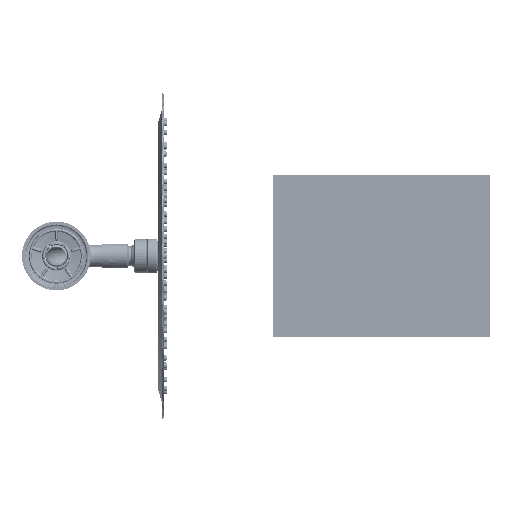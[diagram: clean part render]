
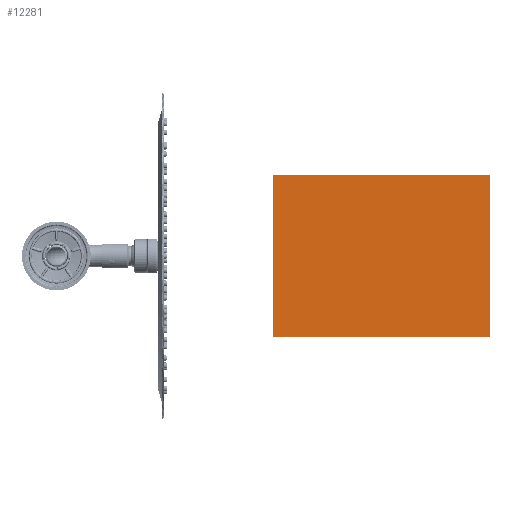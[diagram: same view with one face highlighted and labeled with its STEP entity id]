
A CAD part, front view. The second image highlights one B-rep face of the part: STEP entity #12281.
In plain terms, the highlighted planar face has unit normal (0, -1, 0).
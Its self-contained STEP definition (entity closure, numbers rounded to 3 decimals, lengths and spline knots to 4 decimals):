
#12281 = ADVANCED_FACE ( 'NONE', ( #135633 ), #99969, .F. ) ;
#17207 = EDGE_CURVE ( 'NONE', #106319, #26379, #68722, .T. ) ;
#26379 = VERTEX_POINT ( 'NONE', #176592 ) ;
#30269 = CARTESIAN_POINT ( 'NONE',  ( -3.937, 1.8878, -2.9135 ) ) ;
#36622 = CARTESIAN_POINT ( 'NONE',  ( -3.8976, 1.8878, -2.9135 ) ) ;
#39205 = DIRECTION ( 'NONE',  ( -1., 0., 0. ) ) ;
#44833 = AXIS2_PLACEMENT_3D ( 'NONE', #36622, #98679, #39205 ) ;
#52945 = EDGE_CURVE ( 'NONE', #26379, #66821, #118938, .T. ) ;
#61815 = DIRECTION ( 'NONE',  ( 0., -1., 0. ) ) ;
#63519 = CARTESIAN_POINT ( 'NONE',  ( 3.8976, 1.8878, -2.9135 ) ) ;
#64273 = DIRECTION ( 'NONE',  ( -1., 0., 0. ) ) ;
#64381 = CARTESIAN_POINT ( 'NONE',  ( -3.8976, 1.8878, 2.9132 ) ) ;
#65861 = DIRECTION ( 'NONE',  ( 0., -1., 0. ) ) ;
#66821 = VERTEX_POINT ( 'NONE', #30269 ) ;
#68375 = DIRECTION ( 'NONE',  ( 1., 0., 0. ) ) ;
#68722 = CIRCLE ( 'NONE', #216325, 0.0394 ) ;
#69665 = CARTESIAN_POINT ( 'NONE',  ( -3.8976, 1.8878, -2.9529 ) ) ;
#71914 = ORIENTED_EDGE ( 'NONE', *, *, #253899, .T. ) ;
#89776 = VECTOR ( 'NONE', #159876, 39.3701 ) ;
#98679 = DIRECTION ( 'NONE',  ( 0., 1., 0. ) ) ;
#99969 = PLANE ( 'NONE',  #44833 ) ;
#103190 = CIRCLE ( 'NONE', #250757, 0.0394 ) ;
#106319 = VERTEX_POINT ( 'NONE', #256152 ) ;
#111949 = CARTESIAN_POINT ( 'NONE',  ( 3.8976, 1.8878, -2.9529 ) ) ;
#112950 = VERTEX_POINT ( 'NONE', #69665 ) ;
#118938 = LINE ( 'NONE', #137464, #89776 ) ;
#126269 = CARTESIAN_POINT ( 'NONE',  ( 3.937, 1.8878, 2.9132 ) ) ;
#127033 = LINE ( 'NONE', #162821, #128673 ) ;
#127137 = EDGE_LOOP ( 'NONE', ( #206354, #155726, #212463, #231574, #218395, #71914, #135560, #153415 ) ) ;
#128673 = VECTOR ( 'NONE', #183926, 39.3701 ) ;
#135560 = ORIENTED_EDGE ( 'NONE', *, *, #17207, .T. ) ;
#135633 = FACE_OUTER_BOUND ( 'NONE', #127137, .T. ) ;
#137464 = CARTESIAN_POINT ( 'NONE',  ( -3.937, 1.8878, -2.9135 ) ) ;
#144512 = VERTEX_POINT ( 'NONE', #212559 ) ;
#152906 = VERTEX_POINT ( 'NONE', #196416 ) ;
#153415 = ORIENTED_EDGE ( 'NONE', *, *, #52945, .T. ) ;
#155726 = ORIENTED_EDGE ( 'NONE', *, *, #202613, .T. ) ;
#157829 = AXIS2_PLACEMENT_3D ( 'NONE', #224347, #65861, #228207 ) ;
#159876 = DIRECTION ( 'NONE',  ( 0., 0., -1. ) ) ;
#162821 = CARTESIAN_POINT ( 'NONE',  ( -3.8976, 1.8878, 2.9526 ) ) ;
#165983 = EDGE_CURVE ( 'NONE', #66821, #112950, #103190, .T. ) ;
#169719 = AXIS2_PLACEMENT_3D ( 'NONE', #63519, #244456, #249641 ) ;
#176592 = CARTESIAN_POINT ( 'NONE',  ( -3.937, 1.8878, 2.9132 ) ) ;
#177820 = VERTEX_POINT ( 'NONE', #198247 ) ;
#181221 = EDGE_CURVE ( 'NONE', #218402, #152906, #225260, .T. ) ;
#183926 = DIRECTION ( 'NONE',  ( -1., 0., 0. ) ) ;
#185956 = CARTESIAN_POINT ( 'NONE',  ( 3.937, 1.8878, 2.9132 ) ) ;
#196416 = CARTESIAN_POINT ( 'NONE',  ( 3.8976, 1.8878, 2.9526 ) ) ;
#198247 = CARTESIAN_POINT ( 'NONE',  ( 3.8976, 1.8878, -2.9529 ) ) ;
#202613 = EDGE_CURVE ( 'NONE', #112950, #177820, #248004, .T. ) ;
#202982 = DIRECTION ( 'NONE',  ( 0., -1., 0. ) ) ;
#204152 = VECTOR ( 'NONE', #246705, 39.3701 ) ;
#206354 = ORIENTED_EDGE ( 'NONE', *, *, #165983, .T. ) ;
#212463 = ORIENTED_EDGE ( 'NONE', *, *, #234474, .T. ) ;
#212559 = CARTESIAN_POINT ( 'NONE',  ( 3.937, 1.8878, -2.9135 ) ) ;
#214594 = EDGE_CURVE ( 'NONE', #144512, #218402, #229456, .T. ) ;
#216325 = AXIS2_PLACEMENT_3D ( 'NONE', #64381, #61815, #222910 ) ;
#218395 = ORIENTED_EDGE ( 'NONE', *, *, #181221, .T. ) ;
#218402 = VERTEX_POINT ( 'NONE', #126269 ) ;
#222910 = DIRECTION ( 'NONE',  ( -1., 0., 0. ) ) ;
#223421 = VECTOR ( 'NONE', #68375, 39.3701 ) ;
#224347 = CARTESIAN_POINT ( 'NONE',  ( 3.8976, 1.8878, 2.9132 ) ) ;
#225260 = CIRCLE ( 'NONE', #157829, 0.0394 ) ;
#228207 = DIRECTION ( 'NONE',  ( 1., 0., 0. ) ) ;
#229456 = LINE ( 'NONE', #185956, #204152 ) ;
#231574 = ORIENTED_EDGE ( 'NONE', *, *, #214594, .T. ) ;
#234474 = EDGE_CURVE ( 'NONE', #177820, #144512, #258398, .T. ) ;
#244456 = DIRECTION ( 'NONE',  ( 0., -1., 0. ) ) ;
#245200 = CARTESIAN_POINT ( 'NONE',  ( -3.8976, 1.8878, -2.9135 ) ) ;
#246705 = DIRECTION ( 'NONE',  ( 0., 0., 1. ) ) ;
#248004 = LINE ( 'NONE', #111949, #223421 ) ;
#249641 = DIRECTION ( 'NONE',  ( 1., 0., 0. ) ) ;
#250757 = AXIS2_PLACEMENT_3D ( 'NONE', #245200, #202982, #64273 ) ;
#253899 = EDGE_CURVE ( 'NONE', #152906, #106319, #127033, .T. ) ;
#256152 = CARTESIAN_POINT ( 'NONE',  ( -3.8976, 1.8878, 2.9526 ) ) ;
#258398 = CIRCLE ( 'NONE', #169719, 0.0394 ) ;
